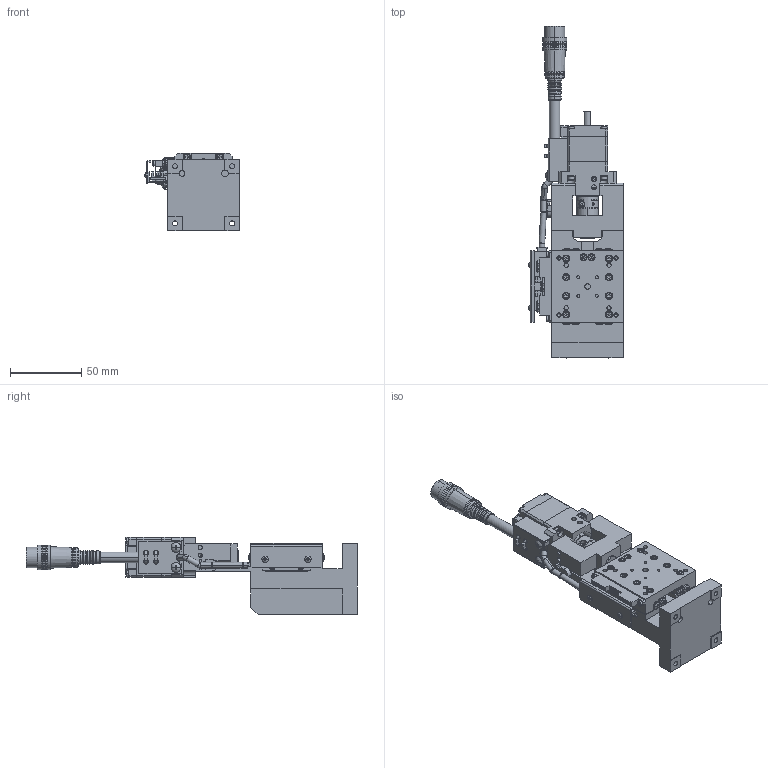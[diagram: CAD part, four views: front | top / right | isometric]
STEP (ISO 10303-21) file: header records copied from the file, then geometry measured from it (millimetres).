
FILE_DESCRIPTION (( 'STEP AP203' ), '1' );
FILE_NAME ('ZA05A-X102.STEP', '2019-02-21T00:44:12', ( '' ), ( '' ), 'SwSTEP 2.0', 'SolidWorks 2018', '' );
FILE_SCHEMA (( 'CONFIG_CONTROL_DESIGN' ));
Length unit declared in the file: millimetre
Products named in the file (6): base-Part-2; base-Part-1; base; table; base-Part-3; ZA05A-X102
Assembly tree (5 placements, depth 3):
  ZA05A-X102
    base
      base-Part-1
      base-Part-2
      base-Part-3
    table
Bounding box: 66.18 x 232.5 x 54 mm (x, y, z)
Volume: 201406.1 mm3; surface area: 71672.1 mm2
Topology: 4 solids, 4 shells, 2124 faces, 5324 edges, 3276 vertices
Faces by surface type: plane 1247, cylinder 503, cone 266, torus 74, sphere 34
Entity records: 63974 total; most frequent: CARTESIAN_POINT 11575, DIRECTION 11276, ORIENTED_EDGE 10476, EDGE_CURVE 5238, AXIS2_PLACEMENT_3D 4013, VERTEX_POINT 3270, LINE 3250, VECTOR 3250
